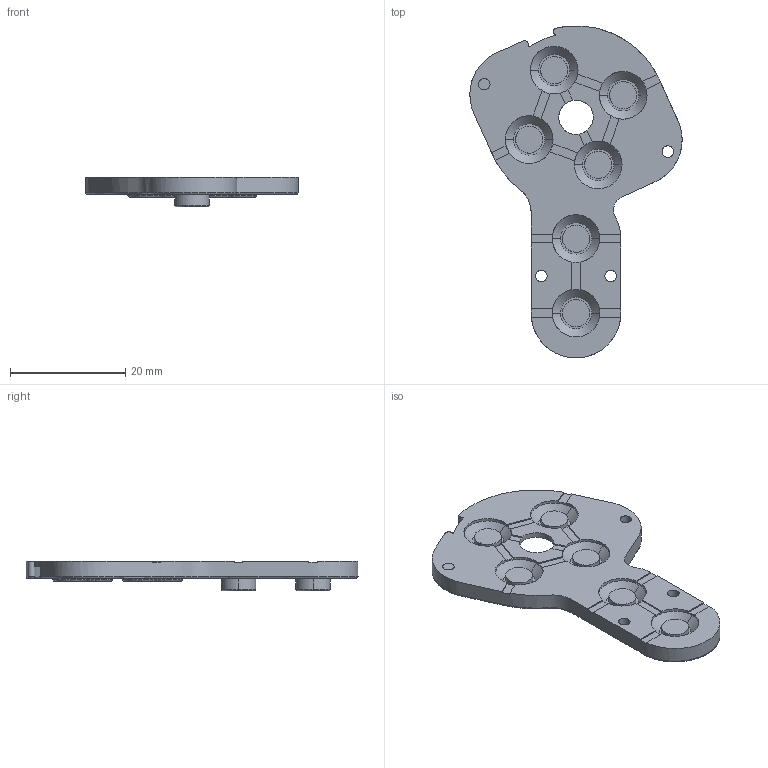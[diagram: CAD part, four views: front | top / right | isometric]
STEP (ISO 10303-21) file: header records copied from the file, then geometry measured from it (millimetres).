
FILE_DESCRIPTION(/* description */ (''),/* implementation_level */ '2;1');
FILE_NAME(/* name */ 'L dpad',/* time_stamp */ '2026-03-21T11:51:24+09:00',/* author */ (''),/* organization */ (''),/* preprocessor_version */ 'ST-DEVELOPER v16.5',/* originating_system */ '',/* authorisation */ '');
FILE_SCHEMA (('CONFIG_CONTROL_DESIGN'));
Length unit declared in the file: millimetre
Products named in the file (1): Document
Bounding box: 36.9 x 57.73 x 5.2 mm (x, y, z)
Volume: 1948.2 mm3; surface area: 3750.3 mm2
Topology: 1 solids, 1 shells, 174 faces, 433 edges, 273 vertices
Faces by surface type: plane 67, cylinder 55, bspline 52
Entity records: 5986 total; most frequent: CARTESIAN_POINT 3256, ORIENTED_EDGE 866, EDGE_CURVE 433, VERTEX_POINT 273, EDGE_LOOP 194, ADVANCED_FACE 174, FACE_OUTER_BOUND 174, B_SPLINE_CURVE_WITH_KNOTS 138
